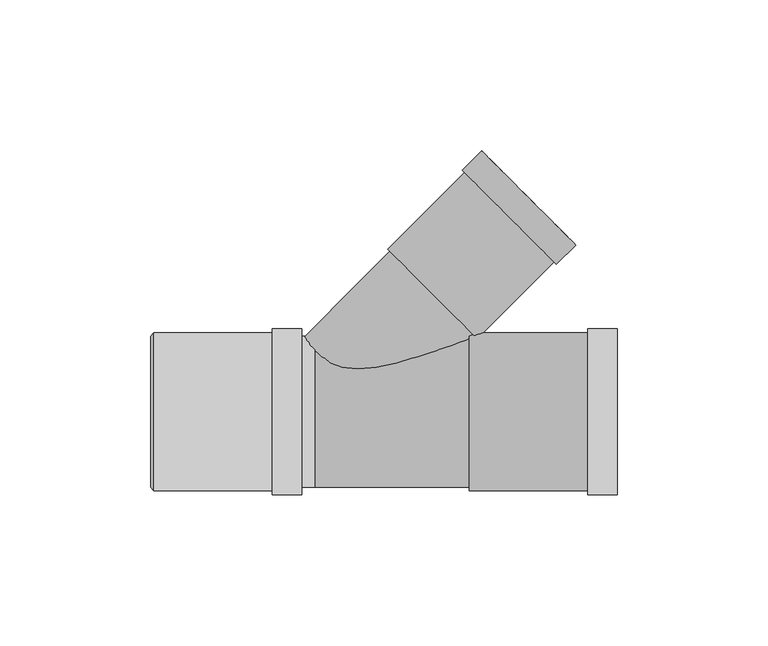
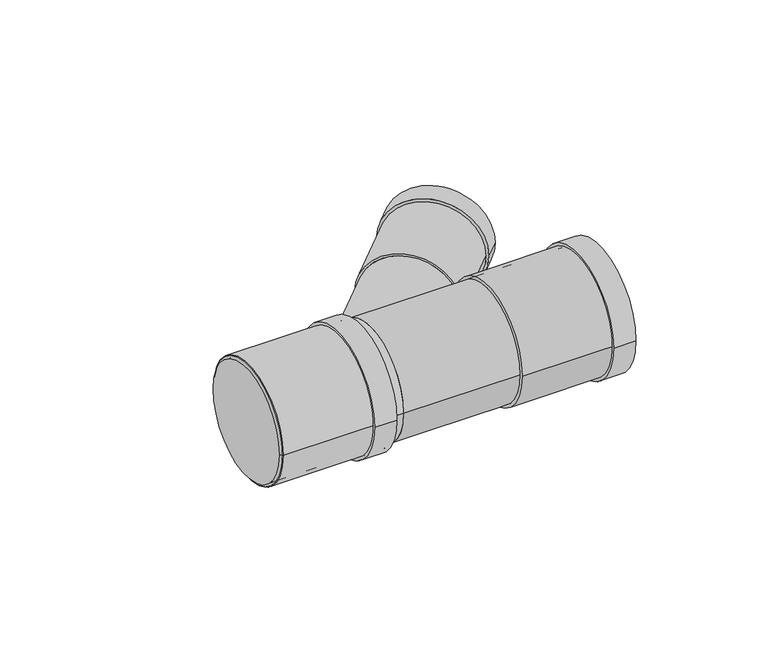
"""IFC4 building model written with IfcOpenShell, lengths in millimetres: pipe fitting geometry, Superdrain HTEA Branch : Superdrain HTEA Branch."""

from ifc_helpers import new_model, si_unit, point, frame, origin, origin_2d, place, context, project, spatial, polyline, circle_curve, trimmed, segment, composite_curve, outline, extrude, source, transform, mapped, element, save
from ifc_brep_helpers import plane_surface, cylinder_surface, revolved_surface, advanced_brep


def pipe_fitting_b7398156(model_context):
    return source(origin(), model_context, "Body", "SolidModel", [
        extrude(outline(composite_curve([segment(trimmed(circle_curve(origin_2d(), 26.25), [point((26.25, 0.0))], [point((-26.25, 0.0))], False, "CARTESIAN"), True, "CONTINUOUS"), segment(trimmed(circle_curve(origin_2d(), 26.25), [point((-26.25, 0.0))], [point((26.25, 0.0))], False, "CARTESIAN"), True, "CONTINUOUS")], self_intersect=False), holes=[composite_curve([segment(trimmed(circle_curve(origin_2d(), 25.0), [point((25.0, 0.0))], [point((-25.0, 0.0))], True, "CARTESIAN"), True, "CONTINUOUS"), segment(trimmed(circle_curve(origin_2d(), 25.0), [point((-25.0, 0.0))], [point((25.0, 0.0))], True, "CARTESIAN"), True, "CONTINUOUS")], self_intersect=False)]), frame((-53.3, 0.0, 0.0), z_axis=(1.0, 0.0, 0.0), x_axis=(0.0, 1.0, 0.0)), (0.0, 0.0, 1.0), 49.0),
        extrude(outline(composite_curve([segment(trimmed(circle_curve(origin_2d(), 27.5625), [point((27.5625, 0.0))], [point((-27.5625, 0.0))], False, "CARTESIAN"), True, "CONTINUOUS"), segment(trimmed(circle_curve(origin_2d(), 27.5625), [point((-27.5625, 0.0))], [point((27.5625, 0.0))], False, "CARTESIAN"), True, "CONTINUOUS")], self_intersect=False), holes=[composite_curve([segment(trimmed(circle_curve(origin_2d(), 25.0), [point((25.0, 0.0))], [point((-25.0, 0.0))], True, "CARTESIAN"), True, "CONTINUOUS"), segment(trimmed(circle_curve(origin_2d(), 25.0), [point((-25.0, 0.0))], [point((25.0, 0.0))], True, "CARTESIAN"), True, "CONTINUOUS")], self_intersect=False)]), frame((-14.1, 0.0, 0.0), z_axis=(1.0, 0.0, 0.0), x_axis=(0.0, 1.0, 0.0)), (0.0, 0.0, 1.0), 9.8),
        advanced_brep(
        [(-54.3, 25.0, 0.0), (-54.3, -25.0, 0.0), (-53.3, 26.25, 0.0), (-53.3, -26.25, 0.0)],
        [
            (0, 1, circle_curve(frame((-54.3, 0.0, 0.0), z_axis=(-1.0, 0.0, 0.0), x_axis=(0.0, 1.0, 0.0)), 25.0)),
            (1, 0, circle_curve(frame((-54.3, 0.0, 0.0), z_axis=(-1.0, 0.0, 0.0), x_axis=(0.0, -1.0, 0.0)), 25.0)),
            (2, 3, circle_curve(frame((-53.3, 0.0, 0.0), z_axis=(1.0, 0.0, 0.0), x_axis=(0.0, -1.0, 0.0)), 26.25)),
            (3, 2, circle_curve(frame((-53.3, 0.0, 0.0), z_axis=(1.0, 0.0, 0.0), x_axis=(0.0, 1.0, 0.0)), 26.25)),
            (3, 1),
            (0, 2),
        ],
        [
            plane_surface(frame((-54.3, 0.0, 0.0), z_axis=(-1.0, 0.0, 0.0), x_axis=(0.0, 0.0, -1.0))),
            plane_surface(frame((-53.3, 0.0, 0.0), z_axis=(1.0, 0.0, 0.0), x_axis=(0.0, 0.0, -1.0))),
            revolved_surface(polyline([(-54.3, 25.0, 0.0), (-53.3, 26.25, 0.0)]), (-74.3, 0.0, 0.0), (1.0, 0.0, 0.0)),
            revolved_surface(polyline([(-54.3, -25.0, 0.0), (-53.3, -26.25, 0.0)]), (-74.3, 0.0, 0.0), (1.0, 0.0, 0.0)),
        ],
        [
            (0, [[1, 2]]),
            (1, [[3, 4]]),
            (2, [[-4, 5, -1, 6]]),
            (3, [[-3, -6, -2, -5]]),
        ],
    ),
        advanced_brep(
        [(51.2, -26.25, 0.0), (51.2, 26.25, 0.0), (100.2, -26.25, 0.0), (100.2, 26.25, 0.0), (100.2, -25.0, 0.0), (100.2, 25.0, 0.0), (52.2, -25.0, 0.0), (52.2, 25.0, 0.0)],
        [
            (0, 1, circle_curve(frame((51.2, 0.0, 0.0), z_axis=(-1.0, 0.0, 0.0), x_axis=(0.0, 1.0, 0.0)), 26.25)),
            (1, 0, circle_curve(frame((51.2, 0.0, 0.0), z_axis=(-1.0, 0.0, 0.0), x_axis=(0.0, 1.0, 0.0)), 26.25)),
            (2, 3, circle_curve(frame((100.2, 0.0, 0.0), z_axis=(1.0, 0.0, 0.0), x_axis=(0.0, 1.0, 0.0)), 26.25)),
            (3, 2, circle_curve(frame((100.2, 0.0, 0.0), z_axis=(1.0, 0.0, 0.0), x_axis=(0.0, 1.0, 0.0)), 26.25)),
            (4, 5, circle_curve(frame((100.2, 0.0, 0.0), z_axis=(-1.0, 0.0, 0.0), x_axis=(0.0, 1.0, 0.0)), 25.0)),
            (5, 4, circle_curve(frame((100.2, 0.0, 0.0), z_axis=(-1.0, 0.0, 0.0), x_axis=(0.0, 1.0, 0.0)), 25.0)),
            (0, 2),
            (3, 1),
            (6, 7, circle_curve(frame((52.2, 0.0, 0.0), z_axis=(-1.0, 0.0, 0.0), x_axis=(0.0, 1.0, 0.0)), 25.0)),
            (7, 5),
            (4, 6),
            (7, 6, circle_curve(frame((52.2, 0.0, 0.0), z_axis=(-1.0, 0.0, 0.0), x_axis=(0.0, 1.0, 0.0)), 25.0)),
        ],
        [
            plane_surface(frame((51.2, 0.0, 0.0), z_axis=(-1.0, 0.0, 0.0), x_axis=(0.0, 0.0, 1.0))),
            plane_surface(frame((100.2, 0.0, 0.0), z_axis=(1.0, 0.0, 0.0), x_axis=(0.0, 0.0, 1.0))),
            cylinder_surface(frame((51.2, 0.0, 0.0), z_axis=(-1.0, 0.0, 0.0), x_axis=(0.0, 1.0, 0.0)), 26.25),
            revolved_surface(polyline([(52.2, 25.0, 0.0), (100.2, 25.0, 0.0)]), (52.2, 0.0, 0.0), (-1.0, 0.0, 0.0)),
            plane_surface(frame((52.2, 0.0, 0.0), z_axis=(1.0, 0.0, 0.0), x_axis=(0.0, 0.0, 1.0))),
        ],
        [
            (0, [[1, 2]]),
            (1, [[3, 4], [5, 6]]),
            (2, [[-1, 7, -4, 8]]),
            (2, [[-2, -8, -3, -7]]),
            (3, [[9, 10, -5, 11]]),
            (3, [[12, -11, -6, -10]]),
            (4, [[-12, -9]]),
        ],
    ),
        extrude(outline(composite_curve([segment(trimmed(circle_curve(origin_2d(), 27.5625), [point((27.5625, 0.0))], [point((-27.5625, 0.0))], False, "CARTESIAN"), True, "CONTINUOUS"), segment(trimmed(circle_curve(origin_2d(), 27.5625), [point((-27.5625, 0.0))], [point((27.5625, 0.0))], False, "CARTESIAN"), True, "CONTINUOUS")], self_intersect=False), holes=[composite_curve([segment(trimmed(circle_curve(origin_2d(), 25.0), [point((25.0, 0.0))], [point((-25.0, 0.0))], True, "CARTESIAN"), True, "CONTINUOUS"), segment(trimmed(circle_curve(origin_2d(), 25.0), [point((-25.0, 0.0))], [point((25.0, 0.0))], True, "CARTESIAN"), True, "CONTINUOUS")], self_intersect=False)]), frame((90.4, 0.0, 0.0), z_axis=(1.0, 0.0, 0.0), x_axis=(0.0, 1.0, 0.0)), (0.0, 0.0, 1.0), 9.8),
        extrude(outline(composite_curve([segment(trimmed(circle_curve(origin_2d(), 20.0), [point((0.0, 20.0))], [point((0.0, -20.0))], False, "CARTESIAN"), True, "CONTINUOUS"), segment(trimmed(circle_curve(origin_2d(), 20.0), [point((0.0, -20.0))], [point((0.0, 20.0))], False, "CARTESIAN"), True, "CONTINUOUS")], self_intersect=False)), frame((0.0, 0.0, 0.0), z_axis=(0.7071067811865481, 0.707106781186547, 0.0), x_axis=(0.0, 0.0, 1.0)), (0.0, 0.0, 1.0), 55.2),
        extrude(outline(composite_curve([segment(trimmed(circle_curve(origin_2d(), 25.0), [point((25.0, 0.0))], [point((-25.0, 0.0))], False, "CARTESIAN"), True, "CONTINUOUS"), segment(trimmed(circle_curve(origin_2d(), 25.0), [point((-25.0, 0.0))], [point((25.0, 0.0))], False, "CARTESIAN"), True, "CONTINUOUS")], self_intersect=False)), frame((-53.3, 0.0, 0.0), z_axis=(1.0, 0.0, 0.0), x_axis=(0.0, 1.0, 0.0)), (0.0, 0.0, 1.0), 53.3),
        extrude(outline(composite_curve([segment(trimmed(circle_curve(origin_2d(), 25.0), [point((-25.0, 0.0))], [point((25.0, 0.0))], False, "CARTESIAN"), True, "CONTINUOUS"), segment(trimmed(circle_curve(origin_2d(), 25.0), [point((25.0, 0.0))], [point((-25.0, 0.0))], False, "CARTESIAN"), True, "CONTINUOUS")], self_intersect=False)), frame((0.0, 0.0, 0.0), z_axis=(1.0, 0.0, 0.0), x_axis=(0.0, 1.0, 0.0)), (0.0, 0.0, 1.0), 51.2),
        extrude(outline(composite_curve([segment(trimmed(circle_curve(origin_2d(), 22.05), [point((0.0, 22.05))], [point((0.0, -22.05))], False, "CARTESIAN"), True, "CONTINUOUS"), segment(trimmed(circle_curve(origin_2d(), 22.05), [point((0.0, -22.05))], [point((0.0, 22.05))], False, "CARTESIAN"), True, "CONTINUOUS")], self_intersect=False), holes=[composite_curve([segment(trimmed(circle_curve(origin_2d(), 20.0), [point((0.0, 20.0))], [point((0.0, -20.0))], True, "CARTESIAN"), True, "CONTINUOUS"), segment(trimmed(circle_curve(origin_2d(), 20.0), [point((0.0, -20.0))], [point((0.0, 20.0))], True, "CARTESIAN"), True, "CONTINUOUS")], self_intersect=False)]), frame((64.4881384, 64.4881384, 0.0), z_axis=(0.7071067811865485, 0.7071067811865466, 0.0), x_axis=(0.0, 0.0, 1.0)), (0.0, 0.0, 1.0), 9.0),
        extrude(outline(composite_curve([segment(trimmed(circle_curve(origin_2d(), 21.0), [point((0.0, 21.0))], [point((0.0, -21.0))], False, "CARTESIAN"), True, "CONTINUOUS"), segment(trimmed(circle_curve(origin_2d(), 21.0), [point((0.0, -21.0))], [point((0.0, 21.0))], False, "CARTESIAN"), True, "CONTINUOUS")], self_intersect=False), holes=[composite_curve([segment(trimmed(circle_curve(origin_2d(), 20.0), [point((0.0, 20.0))], [point((0.0, -20.0))], True, "CARTESIAN"), True, "CONTINUOUS"), segment(trimmed(circle_curve(origin_2d(), 20.0), [point((0.0, -20.0))], [point((0.0, 20.0))], True, "CARTESIAN"), True, "CONTINUOUS")], self_intersect=False)]), frame((39.0322943, 39.0322943, 0.0), z_axis=(0.7071067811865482, 0.7071067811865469, 0.0), x_axis=(0.0, 0.0, 1.0)), (0.0, 0.0, 1.0), 45.0),
    ])


if __name__ == "__main__":
    model = new_model("IFC4")
    model_context = context("Model", 3, world=origin())
    ifc_project = project(units=[si_unit("LENGTHUNIT", "METRE", prefix="MILLI")], contexts=[model_context])
    site = spatial("IfcSite", under=ifc_project)
    building = spatial("IfcBuilding", under=site)
    placement = place(None, origin())
    pipe_fitting_shape = pipe_fitting_b7398156(model_context)
    element("IfcPipeFitting", 1, ObjectType="Superdrain HTEA Branch : Superdrain HTEA Branch", at=placement, inside=building, context=model_context, shape_type="MappedRepresentation", body=[
        mapped(pipe_fitting_shape, transform((0.0, 0.0, 0.0), x_axis=(1.0, 0.0, 0.0), y_axis=(0.0, 1.0, 0.0), z_axis=(0.0, 0.0, 1.0))),
    ])
    save(model, "model.ifc")
